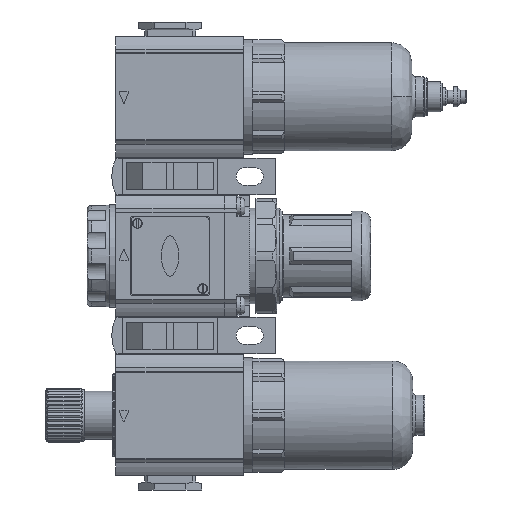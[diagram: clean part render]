
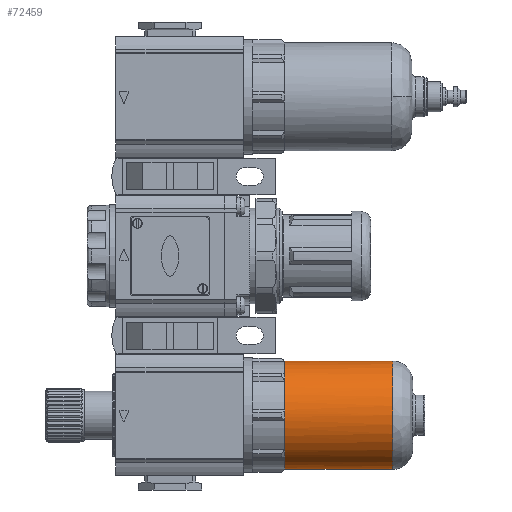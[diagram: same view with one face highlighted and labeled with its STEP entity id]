
A CAD part, left-side view. The second image highlights one B-rep face of the part: STEP entity #72459.
In plain terms, the highlighted cylindrical face has radius 17 mm (diameter 34 mm), a partial arc.
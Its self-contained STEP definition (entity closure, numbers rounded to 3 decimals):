
#358 = CARTESIAN_POINT ( 'NONE',  ( -10.786, -36., -63.14 ) ) ;
#505 = EDGE_CURVE ( 'NONE', #41941, #43617, #34710, .T. ) ;
#651 = CARTESIAN_POINT ( 'NONE',  ( 0., -36., -50. ) ) ;
#1157 = CARTESIAN_POINT ( 'NONE',  ( 0., -36., -50. ) ) ;
#1231 = LINE ( 'NONE', #65193, #66478 ) ;
#3328 = LINE ( 'NONE', #14171, #51767 ) ;
#4646 = ORIENTED_EDGE ( 'NONE', *, *, #53736, .F. ) ;
#5130 = ORIENTED_EDGE ( 'NONE', *, *, #8131, .F. ) ;
#5194 = AXIS2_PLACEMENT_3D ( 'NONE', #651, #57828, #70541 ) ;
#7124 = CARTESIAN_POINT ( 'NONE',  ( -13.14, -36., -39.214 ) ) ;
#7247 = DIRECTION ( 'NONE',  ( 0., 0., -1. ) ) ;
#7779 = CARTESIAN_POINT ( 'NONE',  ( 0., -36., -50. ) ) ;
#8131 = EDGE_CURVE ( 'NONE', #8787, #43617, #79464, .T. ) ;
#8527 = ORIENTED_EDGE ( 'NONE', *, *, #37143, .T. ) ;
#8787 = VERTEX_POINT ( 'NONE', #74115 ) ;
#9043 = VERTEX_POINT ( 'NONE', #38781 ) ;
#9550 = ORIENTED_EDGE ( 'NONE', *, *, #12879, .F. ) ;
#10533 = CIRCLE ( 'NONE', #31575, 17. ) ;
#11671 = FACE_OUTER_BOUND ( 'NONE', #50700, .T. ) ;
#12879 = EDGE_CURVE ( 'NONE', #20576, #32831, #76739, .T. ) ;
#13230 = CARTESIAN_POINT ( 'NONE',  ( -13.14, -36., -60.786 ) ) ;
#13262 = CARTESIAN_POINT ( 'NONE',  ( 0., -36., -50. ) ) ;
#13364 = ORIENTED_EDGE ( 'NONE', *, *, #55000, .F. ) ;
#13461 = EDGE_CURVE ( 'NONE', #8787, #9043, #77639, .T. ) ;
#14171 = CARTESIAN_POINT ( 'NONE',  ( 0., -52.95, -33. ) ) ;
#14688 = ORIENTED_EDGE ( 'NONE', *, *, #66962, .F. ) ;
#15153 = DIRECTION ( 'NONE',  ( 0., 0., -1. ) ) ;
#15223 = DIRECTION ( 'NONE',  ( 0., 0., -1. ) ) ;
#15571 = VERTEX_POINT ( 'NONE', #78435 ) ;
#15659 = CARTESIAN_POINT ( 'NONE',  ( -10.786, -36., -36.86 ) ) ;
#17201 = CARTESIAN_POINT ( 'NONE',  ( -1.665, -36., -33.082 ) ) ;
#18075 = ORIENTED_EDGE ( 'NONE', *, *, #43066, .T. ) ;
#19578 = CARTESIAN_POINT ( 'NONE',  ( 0., -36., -50. ) ) ;
#19589 = DIRECTION ( 'NONE',  ( 0., -1., 0. ) ) ;
#19663 = VERTEX_POINT ( 'NONE', #52891 ) ;
#20152 = ORIENTED_EDGE ( 'NONE', *, *, #13461, .T. ) ;
#20576 = VERTEX_POINT ( 'NONE', #26737 ) ;
#21230 = CIRCLE ( 'NONE', #63244, 17. ) ;
#21558 = DIRECTION ( 'NONE',  ( 0., 0., -1. ) ) ;
#21920 = DIRECTION ( 'NONE',  ( 0., 0., -1. ) ) ;
#25404 = DIRECTION ( 'NONE',  ( 0., 1., 0. ) ) ;
#26125 = DIRECTION ( 'NONE',  ( 0., 1., 0. ) ) ;
#26270 = AXIS2_PLACEMENT_3D ( 'NONE', #7779, #45670, #44865 ) ;
#26737 = CARTESIAN_POINT ( 'NONE',  ( -1.665, -36., -66.918 ) ) ;
#26846 = DIRECTION ( 'NONE',  ( 0., -1., 0. ) ) ;
#27147 = AXIS2_PLACEMENT_3D ( 'NONE', #40349, #33785, #15223 ) ;
#31575 = AXIS2_PLACEMENT_3D ( 'NONE', #79590, #73239, #21920 ) ;
#32831 = VERTEX_POINT ( 'NONE', #358 ) ;
#33463 = CIRCLE ( 'NONE', #26270, 17. ) ;
#33785 = DIRECTION ( 'NONE',  ( 0., -1., 0. ) ) ;
#34130 = DIRECTION ( 'NONE',  ( 0., 0., -1. ) ) ;
#34232 = AXIS2_PLACEMENT_3D ( 'NONE', #1157, #71841, #34130 ) ;
#34710 = CIRCLE ( 'NONE', #34232, 17. ) ;
#37143 = EDGE_CURVE ( 'NONE', #37648, #32831, #61929, .T. ) ;
#37565 = DIRECTION ( 'NONE',  ( 0., 0., -1. ) ) ;
#37648 = VERTEX_POINT ( 'NONE', #13230 ) ;
#38541 = DIRECTION ( 'NONE',  ( 0., 0., -1. ) ) ;
#38781 = CARTESIAN_POINT ( 'NONE',  ( -16.918, -36., -51.665 ) ) ;
#40349 = CARTESIAN_POINT ( 'NONE',  ( 0., -36., -50. ) ) ;
#40739 = CARTESIAN_POINT ( 'NONE',  ( 0., -36., -67. ) ) ;
#41941 = VERTEX_POINT ( 'NONE', #15659 ) ;
#41954 = VERTEX_POINT ( 'NONE', #60051 ) ;
#43066 = EDGE_CURVE ( 'NONE', #15571, #50802, #33463, .T. ) ;
#43617 = VERTEX_POINT ( 'NONE', #7124 ) ;
#44865 = DIRECTION ( 'NONE',  ( 0., 0., -1. ) ) ;
#45607 = EDGE_CURVE ( 'NONE', #41954, #19663, #56639, .T. ) ;
#45670 = DIRECTION ( 'NONE',  ( 0., -1., 0. ) ) ;
#46819 = DIRECTION ( 'NONE',  ( 0., 1., 0. ) ) ;
#47176 = AXIS2_PLACEMENT_3D ( 'NONE', #59587, #78120, #21558 ) ;
#50186 = AXIS2_PLACEMENT_3D ( 'NONE', #19578, #25404, #37565 ) ;
#50700 = EDGE_LOOP ( 'NONE', ( #14688, #18075, #13364, #66294, #5130, #20152, #4646, #8527, #9550, #76638, #65071, #51819 ) ) ;
#50802 = VERTEX_POINT ( 'NONE', #17201 ) ;
#51767 = VECTOR ( 'NONE', #26846, 1000. ) ;
#51819 = ORIENTED_EDGE ( 'NONE', *, *, #45607, .T. ) ;
#52891 = CARTESIAN_POINT ( 'NONE',  ( 0., -69.9, -33. ) ) ;
#53454 = EDGE_CURVE ( 'NONE', #20576, #60648, #10533, .T. ) ;
#53736 = EDGE_CURVE ( 'NONE', #37648, #9043, #21230, .T. ) ;
#55000 = EDGE_CURVE ( 'NONE', #41941, #50802, #57306, .T. ) ;
#56639 = CIRCLE ( 'NONE', #65670, 17. ) ;
#57134 = DIRECTION ( 'NONE',  ( 0., 1., 0. ) ) ;
#57306 = CIRCLE ( 'NONE', #50186, 17. ) ;
#57828 = DIRECTION ( 'NONE',  ( 0., 1., 0. ) ) ;
#58498 = CARTESIAN_POINT ( 'NONE',  ( 0., -36., -50. ) ) ;
#59587 = CARTESIAN_POINT ( 'NONE',  ( 0., -52.95, -50. ) ) ;
#60051 = CARTESIAN_POINT ( 'NONE',  ( 0., -69.9, -67. ) ) ;
#60382 = AXIS2_PLACEMENT_3D ( 'NONE', #13262, #19589, #15153 ) ;
#60648 = VERTEX_POINT ( 'NONE', #40739 ) ;
#61343 = AXIS2_PLACEMENT_3D ( 'NONE', #58498, #46819, #7247 ) ;
#61929 = CIRCLE ( 'NONE', #27147, 17. ) ;
#63227 = CARTESIAN_POINT ( 'NONE',  ( 0., -36., -50. ) ) ;
#63244 = AXIS2_PLACEMENT_3D ( 'NONE', #63227, #57134, #68767 ) ;
#65071 = ORIENTED_EDGE ( 'NONE', *, *, #81054, .T. ) ;
#65193 = CARTESIAN_POINT ( 'NONE',  ( 0., -52.95, -67. ) ) ;
#65670 = AXIS2_PLACEMENT_3D ( 'NONE', #75756, #26125, #38541 ) ;
#66294 = ORIENTED_EDGE ( 'NONE', *, *, #505, .T. ) ;
#66478 = VECTOR ( 'NONE', #78708, 1000. ) ;
#66962 = EDGE_CURVE ( 'NONE', #15571, #19663, #3328, .T. ) ;
#68767 = DIRECTION ( 'NONE',  ( 0., 0., -1. ) ) ;
#68980 = CYLINDRICAL_SURFACE ( 'NONE', #47176, 17. ) ;
#70541 = DIRECTION ( 'NONE',  ( 0., 0., -1. ) ) ;
#71841 = DIRECTION ( 'NONE',  ( 0., -1., 0. ) ) ;
#72459 = ADVANCED_FACE ( 'NONE', ( #11671 ), #68980, .T. ) ;
#73239 = DIRECTION ( 'NONE',  ( 0., -1., 0. ) ) ;
#74115 = CARTESIAN_POINT ( 'NONE',  ( -16.918, -36., -48.335 ) ) ;
#75756 = CARTESIAN_POINT ( 'NONE',  ( 0., -69.9, -50. ) ) ;
#76638 = ORIENTED_EDGE ( 'NONE', *, *, #53454, .T. ) ;
#76739 = CIRCLE ( 'NONE', #5194, 17. ) ;
#77639 = CIRCLE ( 'NONE', #60382, 17. ) ;
#78120 = DIRECTION ( 'NONE',  ( 0., -1., 0. ) ) ;
#78435 = CARTESIAN_POINT ( 'NONE',  ( 0., -36., -33. ) ) ;
#78708 = DIRECTION ( 'NONE',  ( 0., -1., 0. ) ) ;
#79464 = CIRCLE ( 'NONE', #61343, 17. ) ;
#79590 = CARTESIAN_POINT ( 'NONE',  ( 0., -36., -50. ) ) ;
#81054 = EDGE_CURVE ( 'NONE', #60648, #41954, #1231, .T. ) ;
